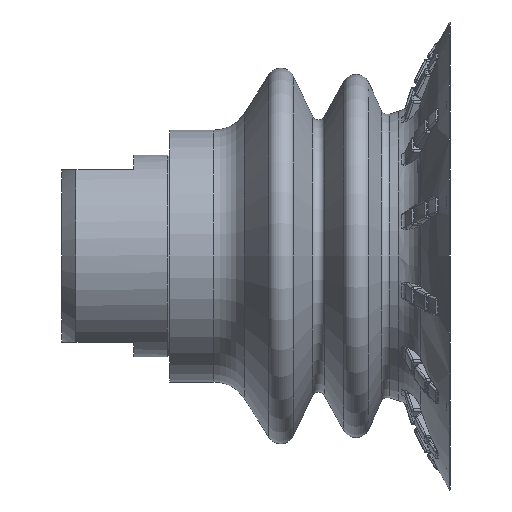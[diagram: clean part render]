
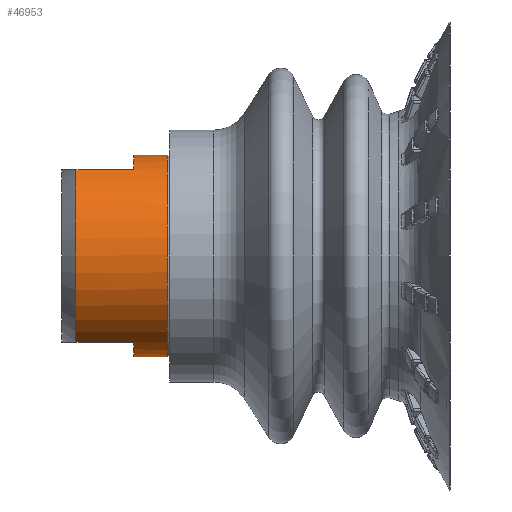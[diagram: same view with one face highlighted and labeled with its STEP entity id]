
A CAD part, left-side view. The second image highlights one B-rep face of the part: STEP entity #46953.
In plain terms, the highlighted cylindrical face has radius 14 mm (diameter 28 mm), a full revolution.
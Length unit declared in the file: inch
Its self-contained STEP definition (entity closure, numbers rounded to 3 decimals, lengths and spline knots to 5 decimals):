
#997 = VERTEX_POINT ( 'NONE', #20936 ) ;
#1488 = EDGE_CURVE ( 'NONE', #66153, #18193, #70383, .T. ) ;
#1930 = DIRECTION ( 'NONE',  ( 0., 1., 0. ) ) ;
#2116 = AXIS2_PLACEMENT_3D ( 'NONE', #23955, #46119, #7994 ) ;
#2246 = DIRECTION ( 'NONE',  ( 0., 0., -1. ) ) ;
#4023 = VECTOR ( 'NONE', #15259, 39.37008 ) ;
#5110 = EDGE_CURVE ( 'NONE', #57983, #66153, #26794, .T. ) ;
#5375 = AXIS2_PLACEMENT_3D ( 'NONE', #38209, #50125, #70892 ) ;
#5890 = FACE_OUTER_BOUND ( 'NONE', #16868, .T. ) ;
#7994 = DIRECTION ( 'NONE',  ( 0., 0., 1. ) ) ;
#9862 = EDGE_CURVE ( 'NONE', #56393, #56393, #58863, .T. ) ;
#10171 = CARTESIAN_POINT ( 'NONE',  ( 0.2839, 0.19685, -0.47244 ) ) ;
#10222 = AXIS2_PLACEMENT_3D ( 'NONE', #41428, #58795, #35622 ) ;
#10997 = FACE_OUTER_BOUND ( 'NONE', #45904, .T. ) ;
#12073 = CARTESIAN_POINT ( 'NONE',  ( -0.2839, 0.51181, 0.47244 ) ) ;
#13170 = EDGE_CURVE ( 'NONE', #57983, #35123, #49836, .T. ) ;
#13371 = CARTESIAN_POINT ( 'NONE',  ( -0.2839, 0.19685, 0.47244 ) ) ;
#14187 = ORIENTED_EDGE ( 'NONE', *, *, #49893, .F. ) ;
#15259 = DIRECTION ( 'NONE',  ( 0., 1., 0. ) ) ;
#15322 = ORIENTED_EDGE ( 'NONE', *, *, #37397, .T. ) ;
#16031 = VERTEX_POINT ( 'NONE', #23535 ) ;
#16178 = ORIENTED_EDGE ( 'NONE', *, *, #27442, .T. ) ;
#16868 = EDGE_LOOP ( 'NONE', ( #21202 ) ) ;
#18193 = VERTEX_POINT ( 'NONE', #45452 ) ;
#18970 = VERTEX_POINT ( 'NONE', #62229 ) ;
#19660 = DIRECTION ( 'NONE',  ( 0., 1., 0. ) ) ;
#20254 = CARTESIAN_POINT ( 'NONE',  ( 0., 0.19685, 0. ) ) ;
#20936 = CARTESIAN_POINT ( 'NONE',  ( -0.2839, 0.19685, -0.47244 ) ) ;
#21037 = DIRECTION ( 'NONE',  ( 0., -1., 0. ) ) ;
#21202 = ORIENTED_EDGE ( 'NONE', *, *, #9862, .T. ) ;
#21376 = CARTESIAN_POINT ( 'NONE',  ( 0., 0.51181, 0. ) ) ;
#23535 = CARTESIAN_POINT ( 'NONE',  ( 0.2839, 0.51181, -0.47244 ) ) ;
#23955 = CARTESIAN_POINT ( 'NONE',  ( 0., 0.01181, 0. ) ) ;
#25317 = VERTEX_POINT ( 'NONE', #49992 ) ;
#26174 = EDGE_CURVE ( 'NONE', #18970, #997, #46012, .T. ) ;
#26484 = DIRECTION ( 'NONE',  ( 0., 1., 0. ) ) ;
#26794 = CIRCLE ( 'NONE', #62680, 0.55118 ) ;
#27442 = EDGE_CURVE ( 'NONE', #35123, #25317, #68165, .T. ) ;
#31772 = CIRCLE ( 'NONE', #42251, 0.55118 ) ;
#35123 = VERTEX_POINT ( 'NONE', #12073 ) ;
#35189 = ORIENTED_EDGE ( 'NONE', *, *, #1488, .F. ) ;
#35622 = DIRECTION ( 'NONE',  ( 0., 0., 1. ) ) ;
#37371 = DIRECTION ( 'NONE',  ( 0., 1., 0. ) ) ;
#37397 = EDGE_CURVE ( 'NONE', #16031, #18193, #31772, .T. ) ;
#38209 = CARTESIAN_POINT ( 'NONE',  ( 0., 0.59055, 0. ) ) ;
#39784 = ORIENTED_EDGE ( 'NONE', *, *, #26174, .F. ) ;
#40468 = ORIENTED_EDGE ( 'NONE', *, *, #5110, .F. ) ;
#41428 = CARTESIAN_POINT ( 'NONE',  ( 0., 0.51181, 0. ) ) ;
#41927 = EDGE_CURVE ( 'NONE', #18970, #16031, #54017, .T. ) ;
#42251 = AXIS2_PLACEMENT_3D ( 'NONE', #21376, #21037, #70394 ) ;
#42402 = DIRECTION ( 'NONE',  ( 0., 1., 0. ) ) ;
#43720 = AXIS2_PLACEMENT_3D ( 'NONE', #20254, #42402, #64517 ) ;
#43890 = VECTOR ( 'NONE', #26484, 39.37008 ) ;
#44237 = CARTESIAN_POINT ( 'NONE',  ( 0.2839, 0.19685, 0.47244 ) ) ;
#44706 = CYLINDRICAL_SURFACE ( 'NONE', #5375, 0.55118 ) ;
#45452 = CARTESIAN_POINT ( 'NONE',  ( 0.2839, 0.51181, 0.47244 ) ) ;
#45904 = EDGE_LOOP ( 'NONE', ( #15322, #35189, #40468, #69475, #16178, #14187, #39784, #46279 ) ) ;
#46012 = CIRCLE ( 'NONE', #43720, 0.55118 ) ;
#46119 = DIRECTION ( 'NONE',  ( 0., 1., 0. ) ) ;
#46279 = ORIENTED_EDGE ( 'NONE', *, *, #41927, .T. ) ;
#46953 = ADVANCED_FACE ( 'NONE', ( #10997, #5890 ), #44706, .T. ) ;
#49836 = LINE ( 'NONE', #70573, #57500 ) ;
#49893 = EDGE_CURVE ( 'NONE', #997, #25317, #70028, .T. ) ;
#49992 = CARTESIAN_POINT ( 'NONE',  ( -0.2839, 0.51181, -0.47244 ) ) ;
#50125 = DIRECTION ( 'NONE',  ( 0., -1., 0. ) ) ;
#52978 = CARTESIAN_POINT ( 'NONE',  ( -0.2839, 0.19685, -0.47244 ) ) ;
#54017 = LINE ( 'NONE', #10171, #4023 ) ;
#56393 = VERTEX_POINT ( 'NONE', #66954 ) ;
#57500 = VECTOR ( 'NONE', #1930, 39.37008 ) ;
#57983 = VERTEX_POINT ( 'NONE', #13371 ) ;
#58795 = DIRECTION ( 'NONE',  ( 0., -1., 0. ) ) ;
#58863 = CIRCLE ( 'NONE', #2116, 0.55118 ) ;
#59819 = CARTESIAN_POINT ( 'NONE',  ( 0.2839, 0.19685, 0.47244 ) ) ;
#62229 = CARTESIAN_POINT ( 'NONE',  ( 0.2839, 0.19685, -0.47244 ) ) ;
#62358 = VECTOR ( 'NONE', #37371, 39.37008 ) ;
#62680 = AXIS2_PLACEMENT_3D ( 'NONE', #63166, #19660, #2246 ) ;
#63166 = CARTESIAN_POINT ( 'NONE',  ( 0., 0.19685, 0. ) ) ;
#64517 = DIRECTION ( 'NONE',  ( 0., 0., 1. ) ) ;
#66153 = VERTEX_POINT ( 'NONE', #44237 ) ;
#66954 = CARTESIAN_POINT ( 'NONE',  ( 0., 0.01181, 0.55118 ) ) ;
#68165 = CIRCLE ( 'NONE', #10222, 0.55118 ) ;
#69475 = ORIENTED_EDGE ( 'NONE', *, *, #13170, .T. ) ;
#70028 = LINE ( 'NONE', #52978, #62358 ) ;
#70383 = LINE ( 'NONE', #59819, #43890 ) ;
#70394 = DIRECTION ( 'NONE',  ( 0., 0., 1. ) ) ;
#70573 = CARTESIAN_POINT ( 'NONE',  ( -0.2839, 0.19685, 0.47244 ) ) ;
#70892 = DIRECTION ( 'NONE',  ( 0., 0., -1. ) ) ;
